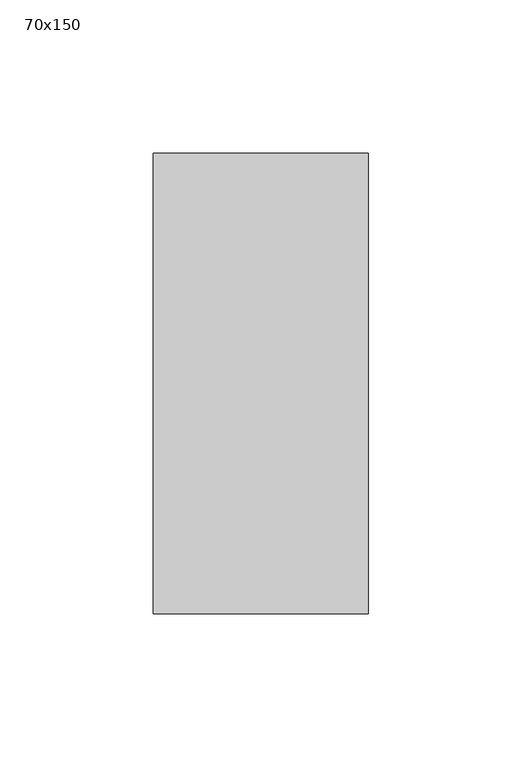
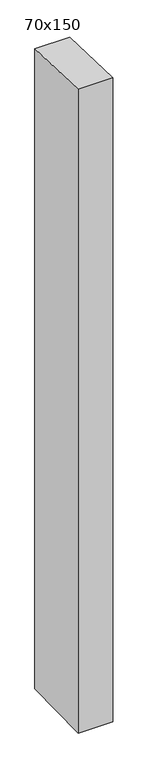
"""IFC4 building model written with IfcOpenShell, lengths in millimetres: member geometry, 長方形のマリオン : 70x150."""

from ifc_helpers import new_model, si_unit, frame, origin, place, context, project, spatial, polyline, outline, extrude, source, transform, mapped, element, save


def member_70x150_34a13c10(model_context):
    return source(origin(), model_context, "Body", "SweptSolid", [
        extrude(outline(polyline([(-75.0, 2.3941027), (75.0, -2.3941027), (75.0, -1360.7942382), (-75.0, -1364.0833075), (-75.0, 2.3941027)])), frame((-35.0, 0.0, 0.0), z_axis=(1.0, 0.0, 0.0), x_axis=(0.0, 1.0, 0.0)), (0.0, 0.0, 1.0), 70.0),
    ])


if __name__ == "__main__":
    model = new_model("IFC4")
    model_context = context("Model", 3, world=origin())
    ifc_project = project(units=[si_unit("LENGTHUNIT", "METRE", prefix="MILLI")], contexts=[model_context])
    site = spatial("IfcSite", under=ifc_project)
    building = spatial("IfcBuilding", under=site)
    placement = place(None, origin())
    member_70x150_shape = member_70x150_34a13c10(model_context)
    element("IfcMember", 1, ObjectType="長方形のマリオン : 70x150", at=placement, inside=building, context=model_context, shape_type="MappedRepresentation", body=[
        mapped(member_70x150_shape, transform((0.0, 0.0, 0.0), x_axis=(1.0, 0.0, 0.0), y_axis=(0.0, 1.0, 0.0), z_axis=(0.0, 0.0, 1.0))),
    ])
    save(model, "model.ifc")
